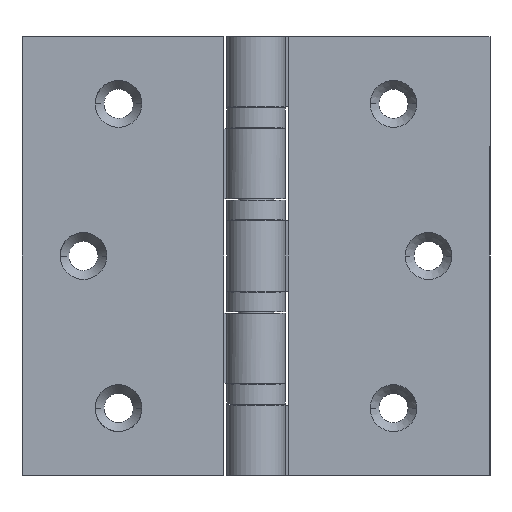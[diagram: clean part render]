
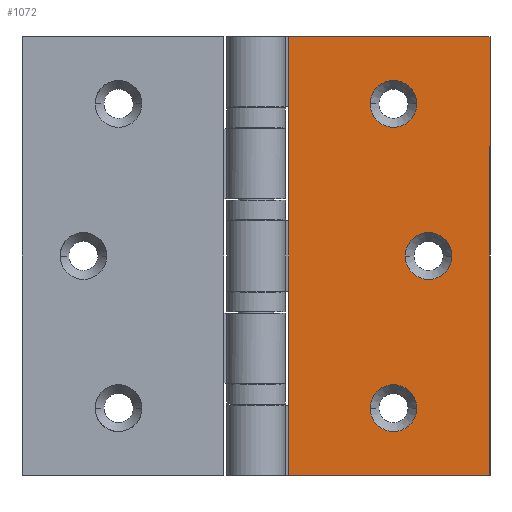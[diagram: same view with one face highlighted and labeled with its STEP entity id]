
A CAD part, front view. The second image highlights one B-rep face of the part: STEP entity #1072.
In plain terms, the highlighted planar face has unit normal (0, -1, 0).
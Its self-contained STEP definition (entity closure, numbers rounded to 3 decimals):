
#172=CARTESIAN_POINT('',(39.137,10.388,63.5));
#173=VERTEX_POINT('',#172);
#182=CARTESIAN_POINT('',(47.137,10.388,63.5));
#183=VERTEX_POINT('',#182);
#184=CARTESIAN_POINT('',(43.137,10.388,63.5));
#185=DIRECTION('',(0.0,1.0,0.0));
#186=DIRECTION('',(-1.0,0.0,0.0));
#187=AXIS2_PLACEMENT_3D('',#184,#185,#186);
#188=CIRCLE('',#187,4.);
#189=EDGE_CURVE('',#183,#173,#188,.T.);
#214=CARTESIAN_POINT('',(39.137,10.388,11.5));
#215=VERTEX_POINT('',#214);
#224=CARTESIAN_POINT('',(47.137,10.388,11.5));
#225=VERTEX_POINT('',#224);
#226=CARTESIAN_POINT('',(43.137,10.388,11.5));
#227=DIRECTION('',(0.0,1.0,0.0));
#228=DIRECTION('',(-1.0,0.0,0.0));
#229=AXIS2_PLACEMENT_3D('',#226,#227,#228);
#230=CIRCLE('',#229,4.);
#231=EDGE_CURVE('',#225,#215,#230,.T.);
#256=CARTESIAN_POINT('',(45.137,10.388,37.5));
#257=VERTEX_POINT('',#256);
#266=CARTESIAN_POINT('',(53.137,10.388,37.5));
#267=VERTEX_POINT('',#266);
#268=CARTESIAN_POINT('',(49.137,10.388,37.5));
#269=DIRECTION('',(0.0,1.0,0.0));
#270=DIRECTION('',(-1.0,0.0,0.0));
#271=AXIS2_PLACEMENT_3D('',#268,#269,#270);
#272=CIRCLE('',#271,4.);
#273=EDGE_CURVE('',#267,#257,#272,.T.);
#675=CARTESIAN_POINT('',(25.228,10.388,0.));
#676=VERTEX_POINT('',#675);
#684=CARTESIAN_POINT('',(25.228,10.388,75.));
#685=VERTEX_POINT('',#684);
#686=CARTESIAN_POINT('',(25.228,10.388,75.));
#687=DIRECTION('',(0.0,0.0,-1.0));
#688=VECTOR('',#687,75.);
#689=LINE('',#686,#688);
#690=EDGE_CURVE('',#685,#676,#689,.T.);
#972=CARTESIAN_POINT('',(49.137,10.388,37.5));
#973=DIRECTION('',(0.0,1.0,0.0));
#974=DIRECTION('',(-1.0,0.0,0.0));
#975=AXIS2_PLACEMENT_3D('',#972,#973,#974);
#976=CIRCLE('',#975,4.);
#977=EDGE_CURVE('',#257,#267,#976,.T.);
#996=CARTESIAN_POINT('',(43.137,10.388,11.5));
#997=DIRECTION('',(0.0,1.0,0.0));
#998=DIRECTION('',(-1.0,0.0,0.0));
#999=AXIS2_PLACEMENT_3D('',#996,#997,#998);
#1000=CIRCLE('',#999,4.);
#1001=EDGE_CURVE('',#215,#225,#1000,.T.);
#1020=CARTESIAN_POINT('',(43.137,10.388,63.5));
#1021=DIRECTION('',(0.0,1.0,0.0));
#1022=DIRECTION('',(-1.0,0.0,0.0));
#1023=AXIS2_PLACEMENT_3D('',#1020,#1021,#1022);
#1024=CIRCLE('',#1023,4.);
#1025=EDGE_CURVE('',#173,#183,#1024,.T.);
#1030=CARTESIAN_POINT('',(25.228,10.388,75.));
#1031=DIRECTION('',(0.0,-1.0,0.0));
#1032=DIRECTION('',(0.0,0.0,-1.0));
#1033=AXIS2_PLACEMENT_3D('',#1030,#1031,#1032);
#1034=PLANE('',#1033);
#1035=CARTESIAN_POINT('',(59.637,10.388,0.));
#1036=VERTEX_POINT('',#1035);
#1037=CARTESIAN_POINT('',(25.228,10.388,0.));
#1038=DIRECTION('',(1.0,0.0,0.0));
#1039=VECTOR('',#1038,34.41);
#1040=LINE('',#1037,#1039);
#1041=EDGE_CURVE('',#676,#1036,#1040,.T.);
#1042=ORIENTED_EDGE('',*,*,#1041,.T.);
#1043=CARTESIAN_POINT('',(59.637,10.388,75.));
#1044=VERTEX_POINT('',#1043);
#1045=CARTESIAN_POINT('',(59.637,10.388,75.));
#1046=DIRECTION('',(0.0,0.0,-1.0));
#1047=VECTOR('',#1046,75.);
#1048=LINE('',#1045,#1047);
#1049=EDGE_CURVE('',#1044,#1036,#1048,.T.);
#1050=ORIENTED_EDGE('',*,*,#1049,.F.);
#1051=CARTESIAN_POINT('',(25.228,10.388,75.));
#1052=DIRECTION('',(1.0,0.0,0.0));
#1053=VECTOR('',#1052,34.41);
#1054=LINE('',#1051,#1053);
#1055=EDGE_CURVE('',#685,#1044,#1054,.T.);
#1056=ORIENTED_EDGE('',*,*,#1055,.F.);
#1057=ORIENTED_EDGE('',*,*,#690,.T.);
#1058=EDGE_LOOP('',(#1042,#1050,#1056,#1057));
#1059=FACE_OUTER_BOUND('',#1058,.T.);
#1060=ORIENTED_EDGE('',*,*,#977,.T.);
#1061=ORIENTED_EDGE('',*,*,#273,.T.);
#1062=EDGE_LOOP('',(#1060,#1061));
#1063=FACE_BOUND('',#1062,.T.);
#1064=ORIENTED_EDGE('',*,*,#1001,.T.);
#1065=ORIENTED_EDGE('',*,*,#231,.T.);
#1066=EDGE_LOOP('',(#1064,#1065));
#1067=FACE_BOUND('',#1066,.T.);
#1068=ORIENTED_EDGE('',*,*,#1025,.T.);
#1069=ORIENTED_EDGE('',*,*,#189,.T.);
#1070=EDGE_LOOP('',(#1068,#1069));
#1071=FACE_BOUND('',#1070,.T.);
#1072=ADVANCED_FACE('',(#1059,#1063,#1067,#1071),#1034,.T.);
